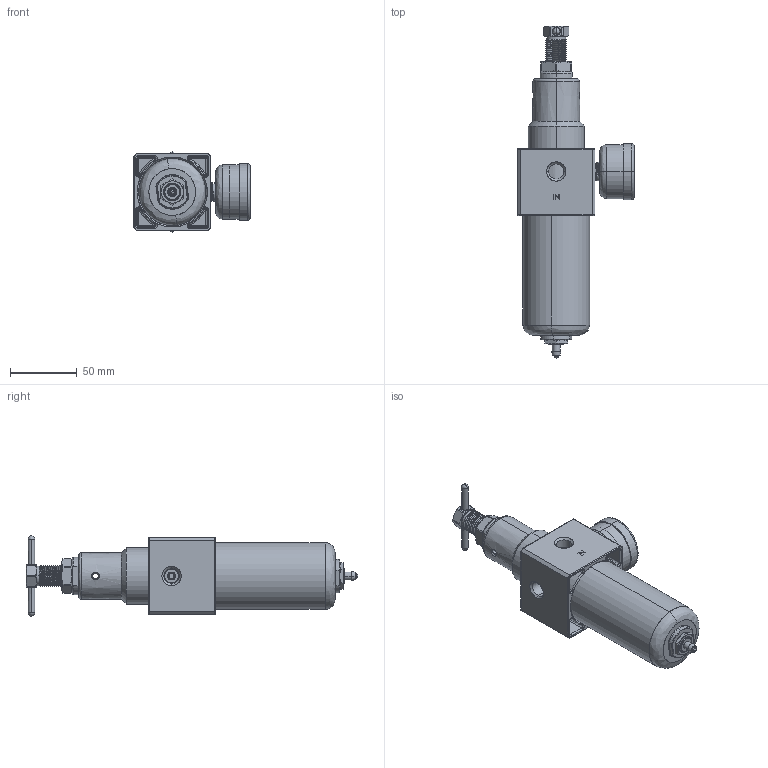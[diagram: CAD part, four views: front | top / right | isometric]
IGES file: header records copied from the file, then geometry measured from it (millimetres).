
Start section: SolidWorks IGES file using analytic representation for surfaces
Bounding box: 87.55 x 248.62 x 60 mm (x, y, z)
Surface area: 103414.6 mm2 (no closed solid volume)
Topology: 0 solids, 0 shells, 988 faces, 14365 edges, 14354 vertices
Faces by surface type: bspline 519, revolution 469
